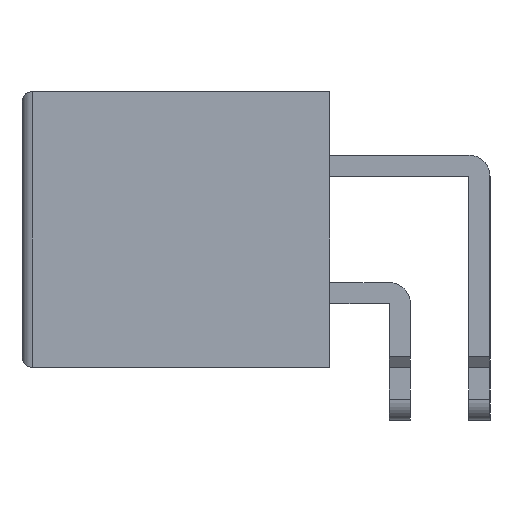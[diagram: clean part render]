
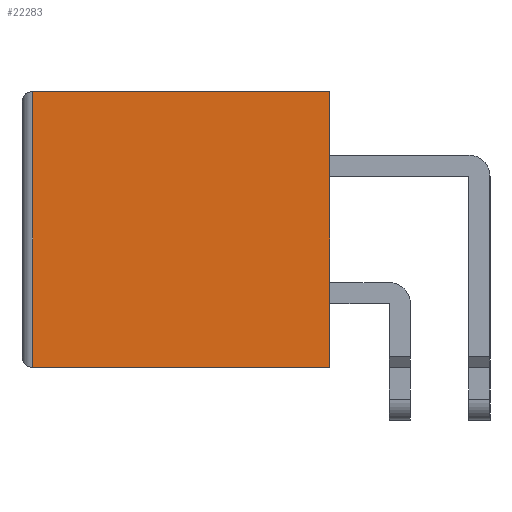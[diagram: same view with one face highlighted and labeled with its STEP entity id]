
A CAD part, left-side view. The second image highlights one B-rep face of the part: STEP entity #22283.
In plain terms, the highlighted planar face has unit normal (-1, 0, 0).
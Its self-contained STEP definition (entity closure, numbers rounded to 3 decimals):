
#2488=VERTEX_POINT('',#33589);
#2489=VERTEX_POINT('',#33593);
#2493=VERTEX_POINT('',#33605);
#2494=VERTEX_POINT('',#33607);
#4757=VECTOR('',#26200,1.);
#4761=VECTOR('',#26211,1.);
#4762=VECTOR('',#26212,1.);
#4763=VECTOR('',#26213,1.);
#7058=LINE('',#33592,#4757);
#7062=LINE('',#33604,#4761);
#7063=LINE('',#33606,#4762);
#7064=LINE('',#33608,#4763);
#9935=EDGE_CURVE('',#2489,#2488,#7058,.T.);
#9941=EDGE_CURVE('',#2489,#2493,#7062,.T.);
#9942=EDGE_CURVE('',#2493,#2494,#7063,.T.);
#9943=EDGE_CURVE('',#2494,#2488,#7064,.T.);
#14890=ORIENTED_EDGE('',*,*,#9935,.F.);
#14891=ORIENTED_EDGE('',*,*,#9941,.T.);
#14892=ORIENTED_EDGE('',*,*,#9942,.T.);
#14893=ORIENTED_EDGE('',*,*,#9943,.T.);
#19581=EDGE_LOOP('',(#14890,#14891,#14892,#14893));
#20953=FACE_BOUND('',#19581,.T.);
#22283=ADVANCED_FACE('',(#20953),#37744,.F.);
#23485=AXIS2_PLACEMENT_3D('',#33603,#26210,$);
#26200=DIRECTION('',(0.,0.,1.));
#26210=DIRECTION('',(1.,0.,0.));
#26211=DIRECTION('',(0.,-1.,0.));
#26212=DIRECTION('',(0.,0.,1.));
#26213=DIRECTION('',(0.,1.,0.));
#33589=CARTESIAN_POINT('',(0.,28.,0.));
#33592=CARTESIAN_POINT('',(0.,28.,-13.));
#33593=CARTESIAN_POINT('',(0.,28.,-26.));
#33603=CARTESIAN_POINT('',(0.,14.5,-13.));
#33604=CARTESIAN_POINT('',(0.,29.,-26.));
#33605=CARTESIAN_POINT('',(0.,0.,-26.));
#33606=CARTESIAN_POINT('',(0.,0.,-26.));
#33607=CARTESIAN_POINT('',(0.,0.,0.));
#33608=CARTESIAN_POINT('',(0.,0.,0.));
#37744=PLANE('',#23485);
